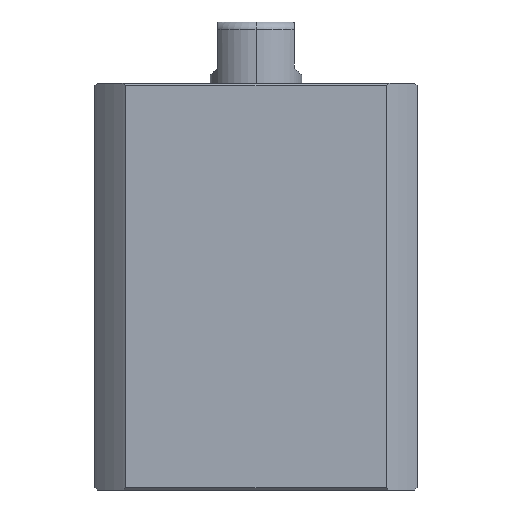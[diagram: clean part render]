
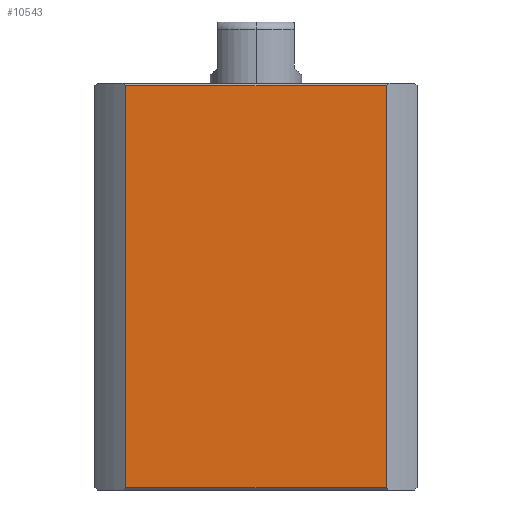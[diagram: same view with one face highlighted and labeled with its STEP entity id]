
A CAD part, left-side view. The second image highlights one B-rep face of the part: STEP entity #10543.
In plain terms, the highlighted planar face has unit normal (-1, 0, 0).
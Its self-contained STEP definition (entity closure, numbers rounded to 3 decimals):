
#619 = ORIENTED_EDGE ( 'NONE', *, *, #970, .T. ) ;
#970 = EDGE_CURVE ( 'NONE', #1319, #10322, #11249, .T. ) ;
#1271 = DIRECTION ( 'NONE',  ( 0., 1., 0. ) ) ;
#1319 = VERTEX_POINT ( 'NONE', #11308 ) ;
#1421 = CARTESIAN_POINT ( 'NONE',  ( -21., 21., 0.3 ) ) ;
#1776 = VERTEX_POINT ( 'NONE', #11870 ) ;
#2166 = ORIENTED_EDGE ( 'NONE', *, *, #2728, .T. ) ;
#2728 = EDGE_CURVE ( 'NONE', #9665, #1776, #8309, .T. ) ;
#2859 = VECTOR ( 'NONE', #6475, 1000. ) ;
#3155 = LINE ( 'NONE', #4600, #2859 ) ;
#3323 = VECTOR ( 'NONE', #1271, 1000. ) ;
#3685 = DIRECTION ( 'NONE',  ( 0., 1., 0. ) ) ;
#3794 = VECTOR ( 'NONE', #8943, 1000. ) ;
#4600 = CARTESIAN_POINT ( 'NONE',  ( -21., -16.971, -247. ) ) ;
#5641 = CARTESIAN_POINT ( 'NONE',  ( -21., -16.971, 0.3 ) ) ;
#6154 = ORIENTED_EDGE ( 'NONE', *, *, #8853, .F. ) ;
#6243 = CARTESIAN_POINT ( 'NONE',  ( -21., 16.971, -247. ) ) ;
#6475 = DIRECTION ( 'NONE',  ( 0., 0., -1. ) ) ;
#6717 = CARTESIAN_POINT ( 'NONE',  ( -21., -16.971, 52.7 ) ) ;
#6914 = CARTESIAN_POINT ( 'NONE',  ( -21., 21., 52.7 ) ) ;
#7101 = ORIENTED_EDGE ( 'NONE', *, *, #7134, .F. ) ;
#7122 = PLANE ( 'NONE',  #10775 ) ;
#7134 = EDGE_CURVE ( 'NONE', #1319, #1776, #9345, .T. ) ;
#8155 = DIRECTION ( 'NONE',  ( 0., 0., 1. ) ) ;
#8309 = LINE ( 'NONE', #6914, #3323 ) ;
#8340 = CARTESIAN_POINT ( 'NONE',  ( -21., 21., 53. ) ) ;
#8463 = VECTOR ( 'NONE', #8155, 1000. ) ;
#8734 = EDGE_LOOP ( 'NONE', ( #7101, #619, #6154, #2166 ) ) ;
#8853 = EDGE_CURVE ( 'NONE', #9665, #10322, #3155, .T. ) ;
#8943 = DIRECTION ( 'NONE',  ( 0., -1., 0. ) ) ;
#9290 = DIRECTION ( 'NONE',  ( 1., 0., 0. ) ) ;
#9345 = LINE ( 'NONE', #6243, #8463 ) ;
#9431 = FACE_OUTER_BOUND ( 'NONE', #8734, .T. ) ;
#9665 = VERTEX_POINT ( 'NONE', #6717 ) ;
#10322 = VERTEX_POINT ( 'NONE', #5641 ) ;
#10543 = ADVANCED_FACE ( 'NONE', ( #9431 ), #7122, .F. ) ;
#10775 = AXIS2_PLACEMENT_3D ( 'NONE', #8340, #9290, #3685 ) ;
#11249 = LINE ( 'NONE', #1421, #3794 ) ;
#11308 = CARTESIAN_POINT ( 'NONE',  ( -21., 16.971, 0.3 ) ) ;
#11870 = CARTESIAN_POINT ( 'NONE',  ( -21., 16.971, 52.7 ) ) ;
